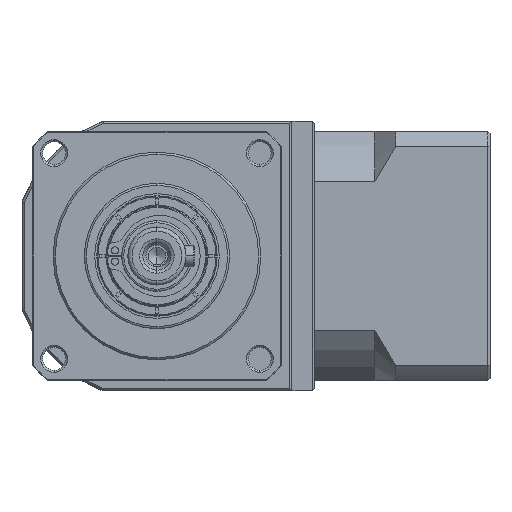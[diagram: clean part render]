
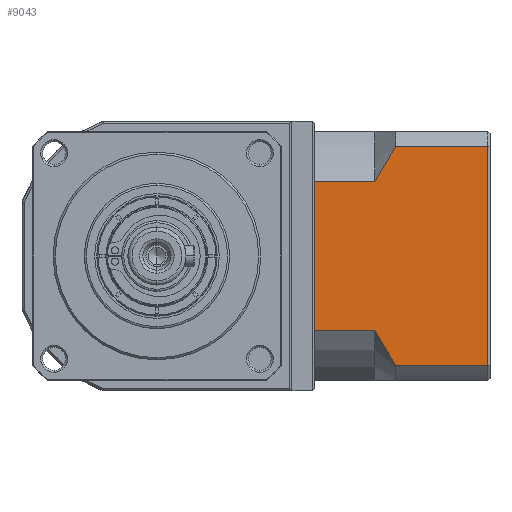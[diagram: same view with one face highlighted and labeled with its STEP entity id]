
A CAD part, left-side view. The second image highlights one B-rep face of the part: STEP entity #9043.
In plain terms, the highlighted planar face has unit normal (-1, 0, 0).
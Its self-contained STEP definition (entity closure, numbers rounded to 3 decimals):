
#4417 = ORIENTED_EDGE ( 'NONE', *, *, #24905, .T. ) ;
#6203 = DIRECTION ( 'NONE',  ( 0., -1., 0. ) ) ;
#9043 = ADVANCED_FACE ( 'NONE', ( #90698 ), #9735, .F. ) ;
#9735 = PLANE ( 'NONE',  #152652 ) ;
#9952 = LINE ( 'NONE', #82017, #103593 ) ;
#15786 = VERTEX_POINT ( 'NONE', #65436 ) ;
#19119 = CARTESIAN_POINT ( 'NONE',  ( -17.014, -82.338, -104.276 ) ) ;
#21535 = VERTEX_POINT ( 'NONE', #135768 ) ;
#22542 = CARTESIAN_POINT ( 'NONE',  ( -17.014, -108.487, -155.188 ) ) ;
#23216 = CARTESIAN_POINT ( 'NONE',  ( -17.014, -80.787, -151.645 ) ) ;
#23397 = DIRECTION ( 'NONE',  ( 0., -1., 0. ) ) ;
#24804 = EDGE_CURVE ( 'NONE', #21535, #134232, #99171, .T. ) ;
#24905 = EDGE_CURVE ( 'NONE', #15786, #88294, #62785, .T. ) ;
#25442 = EDGE_LOOP ( 'NONE', ( #112741, #87611, #45749, #36437, #59525, #46194, #46356, #4417 ) ) ;
#30878 = LINE ( 'NONE', #99332, #124476 ) ;
#31441 = CARTESIAN_POINT ( 'NONE',  ( -17.014, -80.787, -107.16 ) ) ;
#31571 = B_SPLINE_CURVE_WITH_KNOTS ( 'NONE', 3,
 ( #153015, #114811, #92291, #19119, #104591, #31441 ),
 .UNSPECIFIED., .F., .F.,
 ( 4, 2, 4 ),
 ( 0.052, 0.057, 0.062 ),
 .UNSPECIFIED. ) ;
#33419 = CARTESIAN_POINT ( 'NONE',  ( -17.014, -82.337, -146.097 ) ) ;
#33474 = VECTOR ( 'NONE', #23397, 1000. ) ;
#34828 = DIRECTION ( 'NONE',  ( 0., 1., 0. ) ) ;
#36437 = ORIENTED_EDGE ( 'NONE', *, *, #57047, .T. ) ;
#38246 = VECTOR ( 'NONE', #121441, 1000. ) ;
#41824 = CARTESIAN_POINT ( 'NONE',  ( -17.014, -85.787, -151.645 ) ) ;
#45622 = CARTESIAN_POINT ( 'NONE',  ( -17.014, -84.885, -150.282 ) ) ;
#45749 = ORIENTED_EDGE ( 'NONE', *, *, #24804, .F. ) ;
#46194 = ORIENTED_EDGE ( 'NONE', *, *, #113619, .T. ) ;
#46356 = ORIENTED_EDGE ( 'NONE', *, *, #52682, .F. ) ;
#52682 = EDGE_CURVE ( 'NONE', #15786, #86629, #9952, .T. ) ;
#57047 = EDGE_CURVE ( 'NONE', #21535, #124775, #31571, .T. ) ;
#59525 = ORIENTED_EDGE ( 'NONE', *, *, #155777, .F. ) ;
#62785 = B_SPLINE_CURVE_WITH_KNOTS ( 'NONE', 3,
 ( #94306, #106567, #33419, #118861, #45622, #131111 ),
 .UNSPECIFIED., .F., .F.,
 ( 4, 2, 4 ),
 ( 0.1, 0.104, 0.109 ),
 .UNSPECIFIED. ) ;
#65436 = CARTESIAN_POINT ( 'NONE',  ( -17.014, -80.787, -143.215 ) ) ;
#66692 = VECTOR ( 'NONE', #6203, 1000. ) ;
#70767 = LINE ( 'NONE', #120909, #38246 ) ;
#77659 = VECTOR ( 'NONE', #157621, 1000. ) ;
#81176 = CARTESIAN_POINT ( 'NONE',  ( -17.014, -66.287, -107.16 ) ) ;
#82017 = CARTESIAN_POINT ( 'NONE',  ( -17.014, -80.787, -143.215 ) ) ;
#86629 = VERTEX_POINT ( 'NONE', #145508 ) ;
#87611 = ORIENTED_EDGE ( 'NONE', *, *, #126598, .T. ) ;
#88294 = VERTEX_POINT ( 'NONE', #41824 ) ;
#90698 = FACE_OUTER_BOUND ( 'NONE', #25442, .T. ) ;
#92291 = CARTESIAN_POINT ( 'NONE',  ( -17.014, -84.014, -101.469 ) ) ;
#94306 = CARTESIAN_POINT ( 'NONE',  ( -17.014, -80.787, -143.215 ) ) ;
#96572 = CARTESIAN_POINT ( 'NONE',  ( -17.014, -80.787, -107.16 ) ) ;
#99171 = LINE ( 'NONE', #140119, #66692 ) ;
#99332 = CARTESIAN_POINT ( 'NONE',  ( -17.014, -66.287, -155.188 ) ) ;
#100690 = EDGE_CURVE ( 'NONE', #120681, #88294, #110199, .T. ) ;
#103593 = VECTOR ( 'NONE', #142777, 1000. ) ;
#104591 = CARTESIAN_POINT ( 'NONE',  ( -17.014, -81.535, -105.708 ) ) ;
#106567 = CARTESIAN_POINT ( 'NONE',  ( -17.014, -81.537, -144.672 ) ) ;
#107995 = DIRECTION ( 'NONE',  ( 1., 0., 0. ) ) ;
#110199 = LINE ( 'NONE', #23216, #77659 ) ;
#112741 = ORIENTED_EDGE ( 'NONE', *, *, #100690, .F. ) ;
#113395 = CARTESIAN_POINT ( 'NONE',  ( -17.014, -107.987, -151.645 ) ) ;
#113619 = EDGE_CURVE ( 'NONE', #128478, #86629, #30878, .T. ) ;
#114811 = CARTESIAN_POINT ( 'NONE',  ( -17.014, -84.887, -100.09 ) ) ;
#116483 = CARTESIAN_POINT ( 'NONE',  ( -17.014, -107.987, -98.73 ) ) ;
#118861 = CARTESIAN_POINT ( 'NONE',  ( -17.014, -84.012, -148.902 ) ) ;
#120681 = VERTEX_POINT ( 'NONE', #113395 ) ;
#120909 = CARTESIAN_POINT ( 'NONE',  ( -17.014, -107.987, -155.188 ) ) ;
#121441 = DIRECTION ( 'NONE',  ( 0., 0., 1. ) ) ;
#124476 = VECTOR ( 'NONE', #147299, 1000. ) ;
#124775 = VERTEX_POINT ( 'NONE', #152148 ) ;
#126598 = EDGE_CURVE ( 'NONE', #120681, #134232, #70767, .T. ) ;
#127093 = LINE ( 'NONE', #96572, #33474 ) ;
#128478 = VERTEX_POINT ( 'NONE', #81176 ) ;
#131111 = CARTESIAN_POINT ( 'NONE',  ( -17.014, -85.787, -151.645 ) ) ;
#134232 = VERTEX_POINT ( 'NONE', #116483 ) ;
#135768 = CARTESIAN_POINT ( 'NONE',  ( -17.014, -85.787, -98.73 ) ) ;
#140119 = CARTESIAN_POINT ( 'NONE',  ( -17.014, -80.787, -98.73 ) ) ;
#142777 = DIRECTION ( 'NONE',  ( 0., 1., 0. ) ) ;
#145508 = CARTESIAN_POINT ( 'NONE',  ( -17.014, -66.287, -143.215 ) ) ;
#147299 = DIRECTION ( 'NONE',  ( 0., 0., -1. ) ) ;
#152148 = CARTESIAN_POINT ( 'NONE',  ( -17.014, -80.787, -107.16 ) ) ;
#152652 = AXIS2_PLACEMENT_3D ( 'NONE', #22542, #107995, #34828 ) ;
#153015 = CARTESIAN_POINT ( 'NONE',  ( -17.014, -85.787, -98.73 ) ) ;
#155777 = EDGE_CURVE ( 'NONE', #128478, #124775, #127093, .T. ) ;
#157621 = DIRECTION ( 'NONE',  ( 0., 1., 0. ) ) ;
